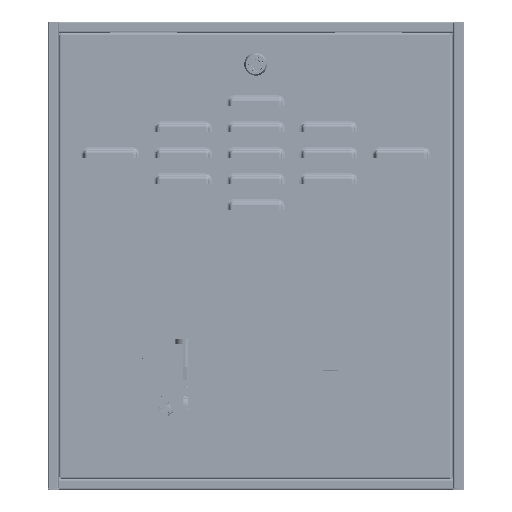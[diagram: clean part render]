
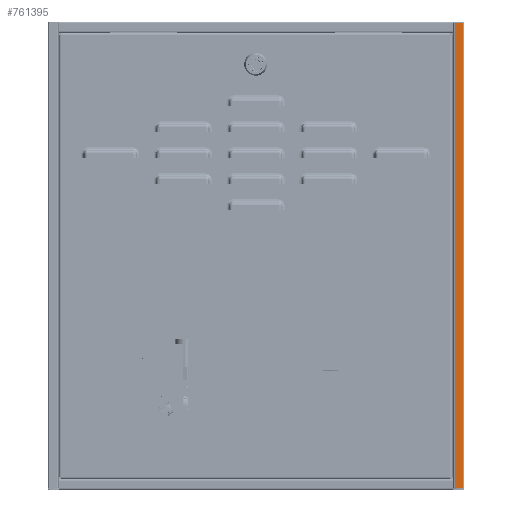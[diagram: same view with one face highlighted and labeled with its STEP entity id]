
A CAD part, top view. The second image highlights one B-rep face of the part: STEP entity #761395.
In plain terms, the highlighted planar face has unit normal (0, 0, 1).
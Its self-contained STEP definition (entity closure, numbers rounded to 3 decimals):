
#19632 = VECTOR ( 'NONE', #782255, 1000. ) ;
#43835 = ORIENTED_EDGE ( 'NONE', *, *, #316775, .F. ) ;
#48310 = CARTESIAN_POINT ( 'NONE',  ( 184., 257.8, 160. ) ) ;
#66884 = LINE ( 'NONE', #916760, #255141 ) ;
#92363 = VERTEX_POINT ( 'NONE', #895477 ) ;
#119098 = VERTEX_POINT ( 'NONE', #686784 ) ;
#145012 = ORIENTED_EDGE ( 'NONE', *, *, #274092, .F. ) ;
#255141 = VECTOR ( 'NONE', #760922, 1000. ) ;
#272648 = LINE ( 'NONE', #881279, #473157 ) ;
#274092 = EDGE_CURVE ( 'NONE', #92363, #119098, #272648, .T. ) ;
#316775 = EDGE_CURVE ( 'NONE', #119098, #912941, #819546, .T. ) ;
#319934 = AXIS2_PLACEMENT_3D ( 'NONE', #48310, #993449, #696554 ) ;
#361751 = CARTESIAN_POINT ( 'NONE',  ( 184., 257.8, 160. ) ) ;
#377738 = EDGE_LOOP ( 'NONE', ( #685386, #379888, #43835, #145012 ) ) ;
#379888 = ORIENTED_EDGE ( 'NONE', *, *, #842275, .F. ) ;
#398712 = VECTOR ( 'NONE', #880137, 1000. ) ;
#430525 = FACE_OUTER_BOUND ( 'NONE', #377738, .T. ) ;
#473157 = VECTOR ( 'NONE', #956713, 1000. ) ;
#508401 = CARTESIAN_POINT ( 'NONE',  ( 183.8, -190., 160. ) ) ;
#522030 = CARTESIAN_POINT ( 'NONE',  ( 183.8, 257.8, 160. ) ) ;
#685386 = ORIENTED_EDGE ( 'NONE', *, *, #864933, .F. ) ;
#686784 = CARTESIAN_POINT ( 'NONE',  ( 176.2, 257.8, 160. ) ) ;
#691867 = CARTESIAN_POINT ( 'NONE',  ( 184., -190., 160. ) ) ;
#696554 = DIRECTION ( 'NONE',  ( -1., 0., 0. ) ) ;
#737360 = PLANE ( 'NONE',  #319934 ) ;
#760922 = DIRECTION ( 'NONE',  ( 0., -1., 0. ) ) ;
#761395 = ADVANCED_FACE ( 'NONE', ( #430525 ), #737360, .F. ) ;
#772354 = LINE ( 'NONE', #691867, #19632 ) ;
#782255 = DIRECTION ( 'NONE',  ( -1., 0., 0. ) ) ;
#819546 = LINE ( 'NONE', #361751, #398712 ) ;
#842275 = EDGE_CURVE ( 'NONE', #912941, #884326, #66884, .T. ) ;
#864933 = EDGE_CURVE ( 'NONE', #884326, #92363, #772354, .T. ) ;
#880137 = DIRECTION ( 'NONE',  ( 1., 0., 0. ) ) ;
#881279 = CARTESIAN_POINT ( 'NONE',  ( 176.2, 257.8, 160. ) ) ;
#884326 = VERTEX_POINT ( 'NONE', #508401 ) ;
#895477 = CARTESIAN_POINT ( 'NONE',  ( 176.2, -190., 160. ) ) ;
#912941 = VERTEX_POINT ( 'NONE', #522030 ) ;
#916760 = CARTESIAN_POINT ( 'NONE',  ( 183.8, 257.8, 160. ) ) ;
#956713 = DIRECTION ( 'NONE',  ( 0., 1., 0. ) ) ;
#993449 = DIRECTION ( 'NONE',  ( 0., 0., -1. ) ) ;
